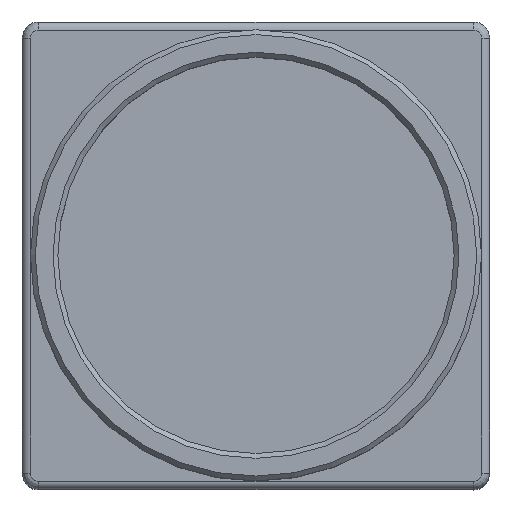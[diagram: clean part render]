
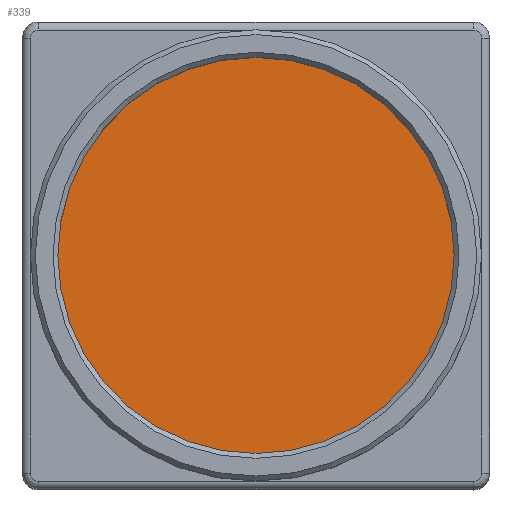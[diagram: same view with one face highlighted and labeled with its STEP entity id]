
A CAD part, top view. The second image highlights one B-rep face of the part: STEP entity #339.
In plain terms, the highlighted planar face has unit normal (0, 0, 1).
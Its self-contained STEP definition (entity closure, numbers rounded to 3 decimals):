
#121=CARTESIAN_POINT('',(-12.3,0.0,0.0));
#122=VERTEX_POINT('',#121);
#123=CARTESIAN_POINT('',(0.0,0.0,0.0));
#124=DIRECTION('',(0.0,0.0,1.0));
#125=DIRECTION('',(-1.0,0.0,0.0));
#126=AXIS2_PLACEMENT_3D('',#123,#124,#125);
#127=CIRCLE('',#126,12.3);
#128=EDGE_CURVE('',#122,#122,#127,.T.);
#331=CARTESIAN_POINT('',(0.0,0.0,0.0));
#332=DIRECTION('',(0.0,0.0,-1.0));
#333=DIRECTION('',(-1.0,0.0,0.0));
#334=AXIS2_PLACEMENT_3D('',#331,#332,#333);
#335=PLANE('',#334);
#336=ORIENTED_EDGE('',*,*,#128,.T.);
#337=EDGE_LOOP('',(#336));
#338=FACE_OUTER_BOUND('',#337,.T.);
#339=ADVANCED_FACE('',(#338),#335,.F.);
